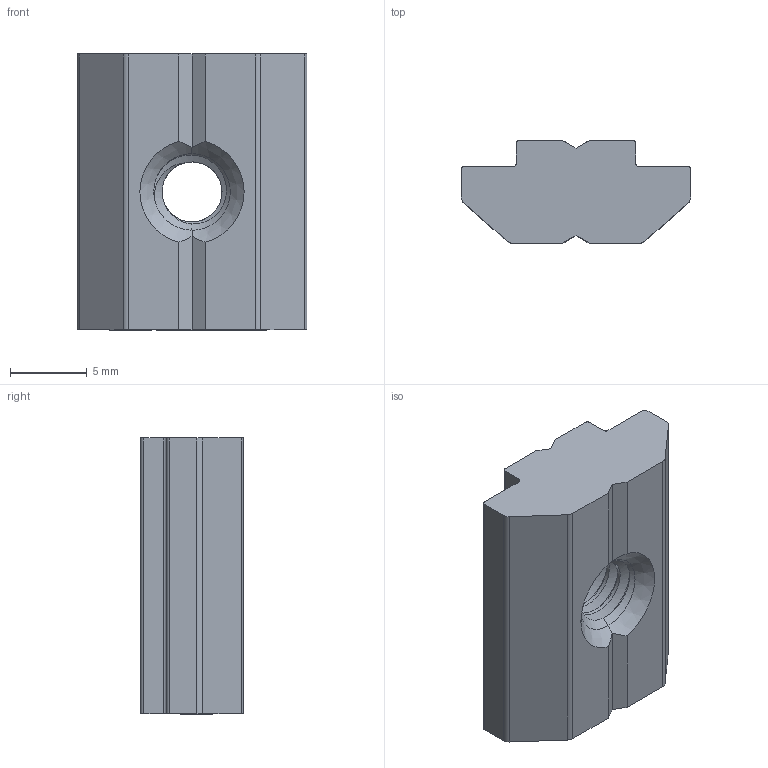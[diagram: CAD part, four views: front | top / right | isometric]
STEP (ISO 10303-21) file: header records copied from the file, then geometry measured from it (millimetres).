
FILE_DESCRIPTION (( 'STEP AP214' ), '1' );
FILE_NAME ('5067AL.STEP', '2022-12-04T22:28:05', ( '' ), ( '' ), 'SwSTEP 2.0', 'SolidWorks 2020', '' );
FILE_SCHEMA (( 'AUTOMOTIVE_DESIGN' ));
Length unit declared in the file: millimetre
Products named in the file (1): 5067AL
Bounding box: 15 x 6.7 x 18.01 mm (x, y, z)
Volume: 1315.4 mm3; surface area: 1174.2 mm2
Topology: 12 solids, 12 shells, 161 faces, 405 edges, 266 vertices
Faces by surface type: plane 95, bspline 41, cylinder 21, cone 4
Entity records: 10686 total; most frequent: CARTESIAN_POINT 5876, ORIENTED_EDGE 810, DIRECTION 565, EDGE_CURVE 405, VERTEX_POINT 266, VECTOR 263, LINE 263, ADVANCED_FACE 161
